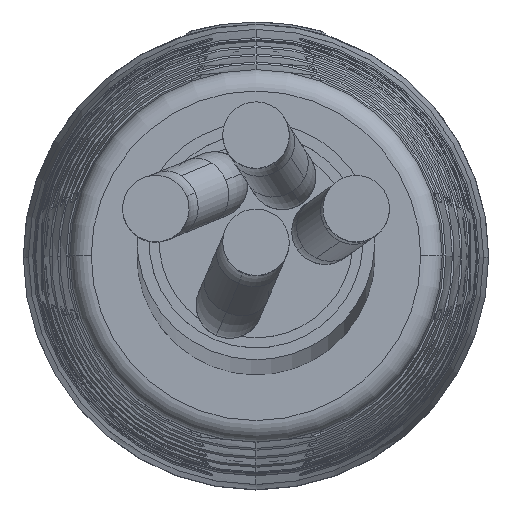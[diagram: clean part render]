
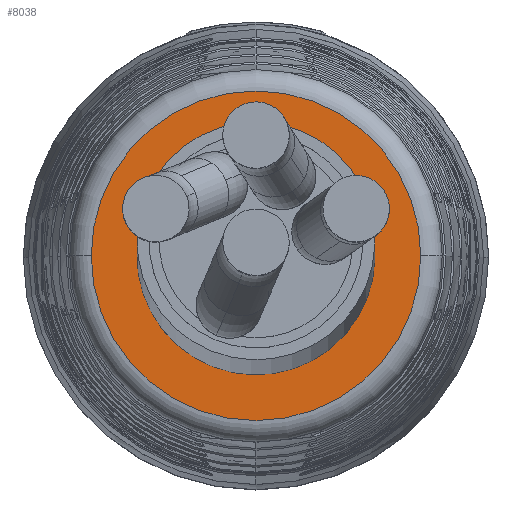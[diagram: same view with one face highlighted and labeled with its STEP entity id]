
A CAD part, top view. The second image highlights one B-rep face of the part: STEP entity #8038.
In plain terms, the highlighted planar face has unit normal (0, 0, 1).
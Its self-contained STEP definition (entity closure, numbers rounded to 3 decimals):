
#160 = CIRCLE ( 'NONE', #33208, 5.55 ) ;
#1447 = EDGE_CURVE ( 'NONE', #21471, #17471, #160, .T. ) ;
#5151 = DIRECTION ( 'NONE',  ( 0., 0., 1. ) ) ;
#5757 = CARTESIAN_POINT ( 'NONE',  ( -7.692, 0., 236.5 ) ) ;
#7199 = EDGE_CURVE ( 'NONE', #46454, #37644, #37833, .T. ) ;
#8038 = ADVANCED_FACE ( 'NONE', ( #14285, #14015 ), #26118, .T. ) ;
#8335 = DIRECTION ( 'NONE',  ( 1., 0., 0. ) ) ;
#9530 = DIRECTION ( 'NONE',  ( 1., 0., 0. ) ) ;
#14015 = FACE_BOUND ( 'NONE', #24348, .T. ) ;
#14285 = FACE_OUTER_BOUND ( 'NONE', #45962, .T. ) ;
#15029 = DIRECTION ( 'NONE',  ( 0., 0., 1. ) ) ;
#17471 = VERTEX_POINT ( 'NONE', #32105 ) ;
#18934 = CIRCLE ( 'NONE', #23736, 7.692 ) ;
#21471 = VERTEX_POINT ( 'NONE', #37650 ) ;
#21704 = CARTESIAN_POINT ( 'NONE',  ( 7.692, 0., 236.5 ) ) ;
#22243 = CARTESIAN_POINT ( 'NONE',  ( 0., 0., 236.5 ) ) ;
#22597 = ORIENTED_EDGE ( 'NONE', *, *, #37986, .T. ) ;
#23736 = AXIS2_PLACEMENT_3D ( 'NONE', #35537, #43409, #8335 ) ;
#24348 = EDGE_LOOP ( 'NONE', ( #44829, #29961 ) ) ;
#26118 = PLANE ( 'NONE',  #44522 ) ;
#27708 = CARTESIAN_POINT ( 'NONE',  ( 0., 0., 236.5 ) ) ;
#28620 = DIRECTION ( 'NONE',  ( 1., 0., 0. ) ) ;
#29961 = ORIENTED_EDGE ( 'NONE', *, *, #1447, .F. ) ;
#30625 = DIRECTION ( 'NONE',  ( 0., 0., 1. ) ) ;
#31377 = CIRCLE ( 'NONE', #42737, 5.55 ) ;
#32105 = CARTESIAN_POINT ( 'NONE',  ( 5.55, 0., 236.5 ) ) ;
#33208 = AXIS2_PLACEMENT_3D ( 'NONE', #48041, #5151, #28620 ) ;
#34223 = CARTESIAN_POINT ( 'NONE',  ( 0., 0., 236.5 ) ) ;
#35537 = CARTESIAN_POINT ( 'NONE',  ( 0., 0., 236.5 ) ) ;
#36727 = DIRECTION ( 'NONE',  ( 0., 0., 1. ) ) ;
#37644 = VERTEX_POINT ( 'NONE', #21704 ) ;
#37650 = CARTESIAN_POINT ( 'NONE',  ( -5.55, 0., 236.5 ) ) ;
#37833 = CIRCLE ( 'NONE', #48338, 7.692 ) ;
#37986 = EDGE_CURVE ( 'NONE', #37644, #46454, #18934, .T. ) ;
#38122 = DIRECTION ( 'NONE',  ( 1., 0., 0. ) ) ;
#42737 = AXIS2_PLACEMENT_3D ( 'NONE', #27708, #36727, #9530 ) ;
#43409 = DIRECTION ( 'NONE',  ( 0., 0., 1. ) ) ;
#44522 = AXIS2_PLACEMENT_3D ( 'NONE', #34223, #15029, #49595 ) ;
#44829 = ORIENTED_EDGE ( 'NONE', *, *, #48944, .F. ) ;
#45962 = EDGE_LOOP ( 'NONE', ( #22597, #48985 ) ) ;
#46454 = VERTEX_POINT ( 'NONE', #5757 ) ;
#48041 = CARTESIAN_POINT ( 'NONE',  ( 0., 0., 236.5 ) ) ;
#48338 = AXIS2_PLACEMENT_3D ( 'NONE', #22243, #30625, #38122 ) ;
#48944 = EDGE_CURVE ( 'NONE', #17471, #21471, #31377, .T. ) ;
#48985 = ORIENTED_EDGE ( 'NONE', *, *, #7199, .T. ) ;
#49595 = DIRECTION ( 'NONE',  ( 1., 0., 0. ) ) ;
